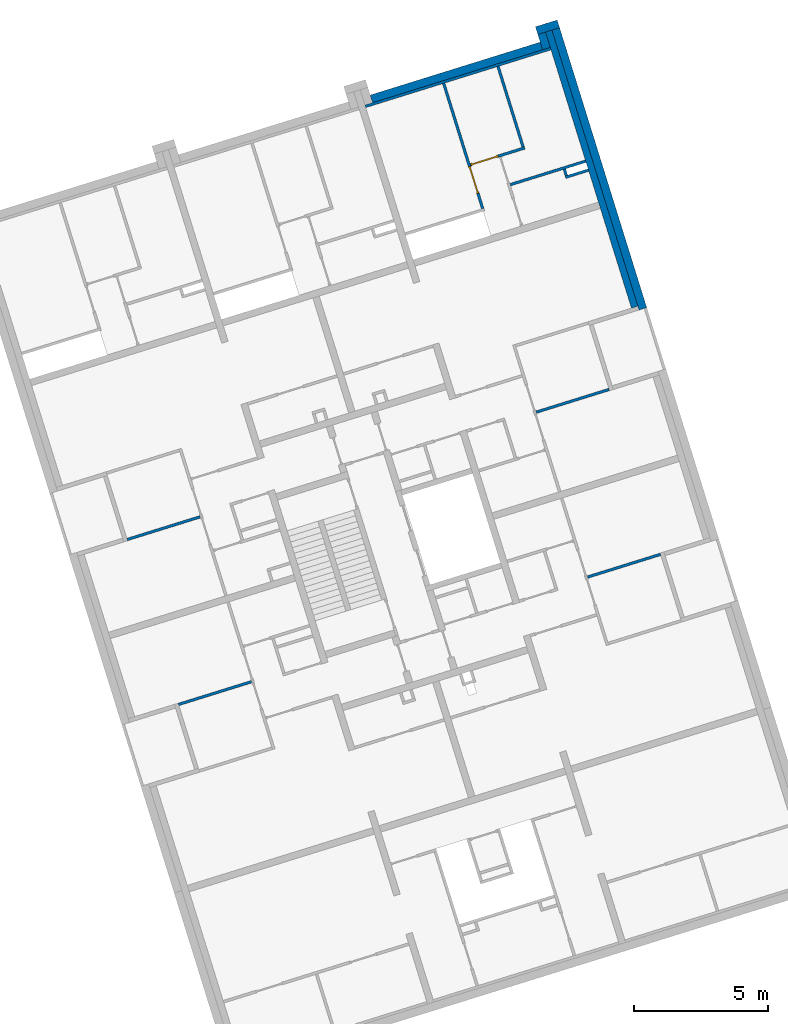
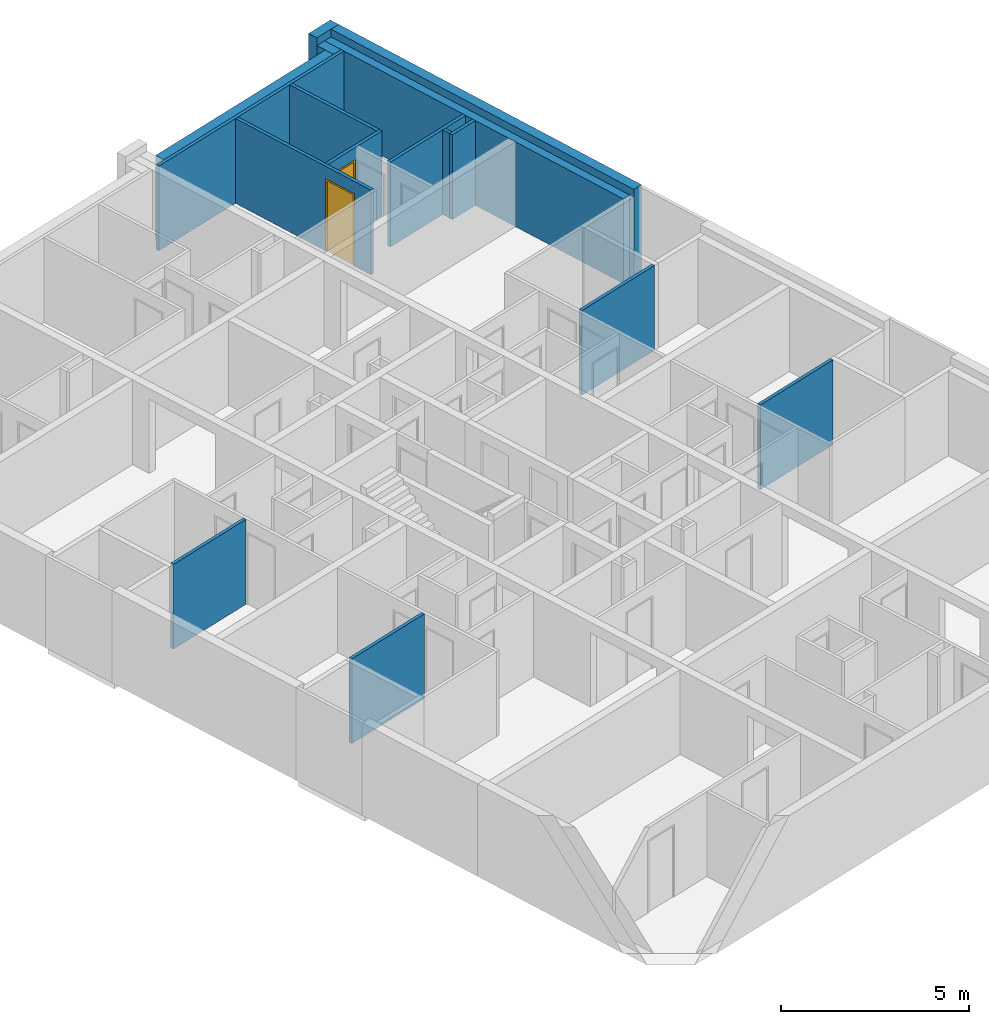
# One storey, part 9 of 12: 16 walls, 2 doors, 8 openings.
"""IFC4 building model written with IfcOpenShell, lengths in metres."""

from ifc_helpers import new_model, entity, si_unit, converted_unit, direction, frame, origin, place, context, subcontext, project, spatial, indexed_curve, outline, extrude, polygons, source, transform, mapped, material, constituent, constituent_set, type_object, type_shapes, element, fill, save


model = new_model("IFC4")

# Units and contexts
model_context = context("Model", 3, precision=1e-05, world=origin(), true_north=direction((6.12323399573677e-17, 1.0)))
body_context = subcontext(model_context, "Body", "Model", "MODEL_VIEW")
ifc_project = project(units=[si_unit("LENGTHUNIT", "METRE"), si_unit("AREAUNIT", "SQUARE_METRE"), converted_unit("PLANEANGLEUNIT", "DEGREE", entity("IfcPlaneAngleMeasure", 0.0174532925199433), si_unit("PLANEANGLEUNIT", "RADIAN"), dimensions=[0, 0, 0, 0, 0, 0, 0]), si_unit("VOLUMEUNIT", "CUBIC_METRE")], contexts=[model_context])

# Site, building, storey
site_placement = place(None, frame((13.1347999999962, 11.9886000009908, 0.0), z_axis=(0.0, 0.0, 1.0), x_axis=(0.954770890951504, 0.297342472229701, 0.0)))
site = spatial("IfcSite", under=ifc_project, at=site_placement, Name="Schiehaven", CompositionType="ELEMENT")
building_placement = place(site_placement, origin())
building = spatial("IfcBuilding", under=site, at=building_placement, Name="VORM huis", CompositionType="ELEMENT")
storey_placement = place(building_placement, frame((0.0, 0.0, 3.9)))
storey = spatial("IfcBuildingStorey", under=building, at=storey_placement, Name="01 eerste verdieping", CompositionType="ELEMENT", Elevation=3.9)

# Walls
ifc_material_1 = material(Name="beton_gewapend_ihw", Category="Miscellaneous")
wall_type_1 = type_object("IfcWallType", Name="Basic Wall:28_WA_skelet_wand 250mm_gen", PredefinedType="STANDARD")
wall_1_placement = place(storey_placement, frame((80.0, 22.9249999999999, 0.0), z_axis=(0.0, 0.0, 1.0), x_axis=(0.0, 1.0, 0.0)))
element("IfcWall", 1, at=wall_1_placement, inside=storey, type_object=wall_type_1, material=ifc_material_1, Name="Constructieve wand", ObjectType="Wand", PredefinedType="NOTDEFINED", context=body_context, shape_type="SweptSolid", body=[
    extrude(outline(indexed_curve([(10.8000000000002, 0.125000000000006), (8.02123799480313e-16, 0.125000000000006), (-8.02123799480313e-16, -0.125000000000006), (10.8000000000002, -0.125000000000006), (10.8000000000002, 0.125000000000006)], self_intersect=False)), origin(), (0.0, 0.0, 1.0), 2.75),
])
ifc_material_2 = material(Name="ntb_ntb_ntb", Category="Miscellaneous")
wall_type_2 = type_object("IfcWallType", Name="Basic Wall:21_WA_gevel_binnenspouwwand 100mm_gen", PredefinedType="STANDARD")
wall_2_placement = place(storey_placement, frame((72.6250000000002, 33.0749999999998, 0.0)))
element("IfcWall", 2, at=wall_2_placement, inside=storey, type_object=wall_type_2, material=ifc_material_2, Name="Binnenspouwblad", ObjectType="Wand", PredefinedType="NOTDEFINED", context=body_context, shape_type="SweptSolid", body=[
    extrude(outline(indexed_curve([(7.24999999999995, 0.0499999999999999), (-1.37255262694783e-16, 0.0500000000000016), (1.37255262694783e-16, -0.0500000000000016), (7.24999999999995, -0.0500000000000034), (7.24999999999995, 0.0499999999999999)], self_intersect=False)), origin(), (0.0, 0.0, 1.0), 2.75),
])
wall_type_3 = type_object("IfcWallType", Name="Basic Wall: 300mm_gen", PredefinedType="STANDARD")
wall_3_placement = place(storey_placement, frame((80.2750000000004, 22.7749999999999, 0.0), z_axis=(0.0, 0.0, 1.0), x_axis=(0.0, 1.0, 0.0)))
element("IfcWall", 3, at=wall_3_placement, inside=storey, type_object=wall_type_3, material=ifc_material_2, Name="Gevelwand", ObjectType="Wand", PredefinedType="NOTDEFINED", context=body_context, shape_type="SweptSolid", body=[
    extrude(outline(indexed_curve([(10.9499999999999, 0.150000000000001), (7.02400300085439e-16, 0.150000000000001), (-7.02400300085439e-16, -0.150000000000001), (10.9499999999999, -0.15), (10.9499999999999, 0.150000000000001)], self_intersect=False)), origin(), (0.0, 0.0, 1.0), 3.0),
])
wall_4_placement = place(storey_placement, frame((79.7250000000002, 33.7249999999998, 0.0), z_axis=(0.0, 0.0, 1.0), x_axis=(0.0, -1.0, 0.0)))
element("IfcWall", 4, at=wall_4_placement, inside=storey, type_object=wall_type_3, material=ifc_material_2, Name="Gevelwand", ObjectType="Wand", PredefinedType="NOTDEFINED", context=body_context, shape_type="SweptSolid", body=[
    extrude(outline(indexed_curve([(0.60000000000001, 0.150000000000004), (-9.66298299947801e-16, 0.150000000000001), (9.66298299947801e-16, -0.150000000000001), (0.600000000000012, -0.149999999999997), (0.60000000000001, 0.150000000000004)], self_intersect=False)), origin(), (0.0, 0.0, 1.0), 2.75),
])
wall_5_placement = place(storey_placement, frame((79.5750000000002, 33.2749999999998, 0.0), z_axis=(0.0, 0.0, 1.0), x_axis=(-1.0, 0.0, 0.0)))
element("IfcWall", 5, at=wall_5_placement, inside=storey, type_object=wall_type_3, material=ifc_material_2, Name="Gevelwand", ObjectType="Wand", PredefinedType="NOTDEFINED", context=body_context, shape_type="SweptSolid", body=[
    extrude(outline(indexed_curve([(6.64999999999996, 0.150000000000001), (-4.90186530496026e-16, 0.150000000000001), (4.90186530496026e-16, -0.150000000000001), (6.64999999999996, -0.15), (6.64999999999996, 0.150000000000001)], self_intersect=False)), origin(), (0.0, 0.0, 1.0), 2.75),
])
wall_6_placement = place(storey_placement, frame((80.4250000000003, 33.8749999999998, 0.0), z_axis=(0.0, 0.0, 1.0), x_axis=(-1.0, 0.0, 0.0)))
element("IfcWall", 6, at=wall_6_placement, inside=storey, type_object=wall_type_3, material=ifc_material_2, Name="Gevelwand", ObjectType="Wand", PredefinedType="NOTDEFINED", context=body_context, shape_type="SweptSolid", body=[
    extrude(outline(indexed_curve([(0.850000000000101, 0.150000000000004), (-6.58211410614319e-16, 0.150000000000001), (6.58211410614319e-16, -0.150000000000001), (0.850000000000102, -0.149999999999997), (0.850000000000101, 0.150000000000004)], self_intersect=False)), origin(), (0.0, 0.0, 1.0), 3.0),
])

# Wall, openings, door
wall_type_4 = type_object("IfcWallType", Name="Basic Wall:22_WA_afbouw_binnenwand 100mm_gen", PredefinedType="STANDARD")
wall_7_placement = place(storey_placement, frame((75.7250000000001, 29.8249999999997, 0.0)))
wall_7 = element("IfcWall", 7, at=wall_7_placement, inside=storey, type_object=wall_type_4, material=ifc_material_2, Name="Binnenwand", ObjectType="Wand", PredefinedType="NOTDEFINED", context=body_context, shape_type="Tessellation", body=[
    polygons([(2.12499999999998, -0.0500000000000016, 2.75), (1.19999999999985, -0.0499999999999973, 2.75), (1.09999999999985, -0.0500000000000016, 2.75), (2.23075167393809e-15, -0.0499999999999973, 2.75), (2.23075167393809e-15, -0.0499999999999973, 2.34999999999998), (2.23075167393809e-15, -0.0499999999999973, 0.0), (0.0250000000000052, -0.0499999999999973, 0.0), (0.0250000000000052, -0.0499999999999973, 2.34999999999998), (1.07500000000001, -0.0500000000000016, 2.34999999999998), (1.07500000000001, -0.0500000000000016, 0.0), (2.12499999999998, -0.0500000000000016, 0.0), (1.5690663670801e-15, 0.0500000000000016, 2.75), (2.02499999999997, 0.0500000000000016, 2.75), (2.12499999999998, 0.0499999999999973, 2.75), (2.12499999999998, 0.0499999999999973, 0.0), (2.02499999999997, 0.0500000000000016, 5.41433564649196e-16), (1.07500000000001, 0.0500000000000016, 0.0), (1.07500000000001, 0.0500000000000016, 2.34999999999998), (0.0250000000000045, 0.0500000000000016, 2.34999999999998), (0.0250000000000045, 0.0500000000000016, 0.0), (1.5690663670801e-15, 0.0500000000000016, 0.0)], [[[1, 2, 3, 4, 5, 6, 7, 8, 9, 10, 11]], [[12, 13, 14, 15, 16, 17, 18, 19, 20, 21]], [[6, 21, 20, 7]], [[4, 3, 2, 1, 14, 13, 12]], [[6, 5, 4, 12, 21]], [[19, 8, 7, 20]], [[9, 18, 17, 10]], [[8, 19, 18, 9]], [[1, 11, 15, 14]], [[15, 11, 10, 17, 16]]], closed=True),
])
opening_1_placement = place(wall_7_placement, origin())
element("IfcOpeningElement", 8, at=opening_1_placement, cuts=wall_7, Name="Binnendeur", PredefinedType="OPENING", context=body_context, shape_type="SweptSolid", body=[
    extrude(outline(indexed_curve([(-0.050000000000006, -1.17499999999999), (0.0499999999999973, -1.17499999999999), (0.0499999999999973, 1.17499999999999), (-0.050000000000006, 1.17499999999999), (-0.050000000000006, -1.17499999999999)], self_intersect=False)), frame((1.14999999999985, -1.10000000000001, 1.17499999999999), z_axis=(0.0, 1.0, 0.0), x_axis=(1.0, 0.0, 0.0)), (0.0, 0.0, 1.0), 1.05),
])
opening_2_placement = place(wall_7_placement, frame((1.07500000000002, 0.0499999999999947, 0.0)))
opening_2 = element("IfcOpeningElement", 9, at=opening_2_placement, cuts=wall_7, Name="Binnendeur", PredefinedType="OPENING", context=body_context, shape_type="SweptSolid", body=[
    extrude(outline(indexed_curve([(2.34999999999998, 1.05), (0.0, 1.05), (0.0, -1.13635160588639e-29), (2.34999999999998, -1.13635160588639e-29), (2.34999999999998, 1.05)], self_intersect=False)), frame((0.0, 0.0, 0.0), z_axis=(0.0, -1.0, 0.0), x_axis=(0.0, 0.0, 1.0)), (0.0, 0.0, 1.0), 0.1),
])
ifc_material_3 = material(Name="PD_a_binnenwandopeningen", Category="Miscellaneous")
ifc_constituent_1 = constituent(ifc_material_3, Name="PD_a_binnenwandopeningen", Category="Miscellaneous")
ifc_material_4 = material(Name="metaal_aluminium_ntb", Category="Miscellaneous")
ifc_constituent_2 = constituent(ifc_material_4, Name="metaal_aluminium_ntb", Category="Miscellaneous")
ifc_constituent_set_1 = constituent_set(constituents=[ifc_constituent_1, ifc_constituent_2])
ifc_constituent_3 = constituent(ifc_material_3, Name="PD_a_binnenwandopeningen", Category="Miscellaneous")
ifc_constituent_4 = constituent(ifc_material_4, Name="Panel", Category="Miscellaneous")
ifc_constituent_set_2 = constituent_set(constituents=[ifc_constituent_3, ifc_constituent_4])
door_type = type_object("IfcDoorType", Name="32_DO_binnendeur enkel:binnendeur", OperationType="REVOLVING", PredefinedType="DOOR", material=ifc_constituent_set_2)
shared_shape = source(origin(), body_context, "Body", "SweptSolid", [
    extrude(outline(indexed_curve([(-1.16249999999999, -0.525000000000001), (1.18749999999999, -0.525), (1.18749999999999, 0.525), (-1.16249999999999, 0.525), (-1.16249999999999, 0.475), (1.13749999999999, 0.475), (1.13749999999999, -0.475), (-1.16249999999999, -0.475), (-1.16249999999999, -0.525000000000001)], self_intersect=False)), frame((0.525000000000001, 0.0, 1.16249999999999), z_axis=(0.0, 1.0, 0.0), x_axis=(0.0, 0.0, 1.0)), (0.0, 0.0, 1.0), 0.1),
    extrude(outline(indexed_curve([(-0.025, -0.475), (0.025, -0.475), (0.025, 0.475), (-0.025, 0.475), (-0.025, -0.475)], self_intersect=False)), frame((0.525000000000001, 0.0499999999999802, 0.0), z_axis=(0.0, 0.0, 1.0), x_axis=(0.0, 1.0, 0.0)), (0.0, 0.0, 1.0), 2.29999999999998),
])
type_shapes(door_type, [shared_shape])
door_1_placement = place(opening_2_placement, frame((0.0, 0.0, 0.0), z_axis=(0.0, 0.0, 1.0), x_axis=(-1.0, 0.0, 0.0)))
door_1 = element("IfcDoor", 10, at=door_1_placement, inside=storey, type_object=door_type, material=ifc_constituent_set_1, Name="Binnendeur", ObjectType="Deur", OperationType="REVOLVING", OverallHeight=2.34999999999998, OverallWidth=1.05, PredefinedType="DOOR", context=body_context, shape_type="MappedRepresentation", body=[
    mapped(shared_shape, transform((0.0, 0.0, 0.0), scale=1.0)),
])
fill(opening_2, door_1)

wall_8_placement = place(storey_placement, frame((75.6750000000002, 33.0249999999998, 0.0), z_axis=(0.0, 0.0, 1.0), x_axis=(0.0, -1.0, 0.0)))
wall_8 = element("IfcWall", 11, at=wall_8_placement, inside=storey, type_object=wall_type_4, material=ifc_material_2, Name="Binnenwand", ObjectType="Wand", PredefinedType="NOTDEFINED", context=body_context, shape_type="Tessellation", body=[
    polygons([(4.90000000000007, -0.0500000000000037, 2.75), (4.33146851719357e-15, -0.0500000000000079, 2.75), (4.33146851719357e-15, -0.0500000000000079, 0.0), (3.25000000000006, -0.0500000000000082, 0.0), (3.25000000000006, -0.0500000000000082, 2.34999999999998), (4.30000000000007, -0.0500000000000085, 2.34999999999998), (4.30000000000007, -0.0500000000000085, 0.0), (4.90000000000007, -0.0500000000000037, 0.0), (0.0, 0.0499999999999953, 2.75), (3.15000000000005, 0.0499999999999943, 2.75), (3.25000000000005, 0.0499999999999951, 2.75), (4.90000000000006, 0.0499999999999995, 2.75), (4.90000000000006, 0.0499999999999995, 0.0), (4.30000000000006, 0.0499999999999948, 0.0), (4.30000000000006, 0.0499999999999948, 2.34999999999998), (3.25000000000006, 0.0499999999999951, 2.34999999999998), (3.25000000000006, 0.0499999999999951, 0.0), (3.15000000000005, 0.0499999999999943, 5.41433564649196e-16), (0.0, 0.0499999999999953, 0.0)], [[[1, 2, 3, 4, 5, 6, 7, 8]], [[9, 10, 11, 12, 13, 14, 15, 16, 17, 18, 19]], [[3, 19, 18, 17, 4]], [[2, 1, 12, 11, 10, 9]], [[3, 2, 9, 19]], [[1, 8, 13, 12]], [[6, 15, 14, 7]], [[16, 5, 4, 17]], [[15, 6, 5, 16]], [[13, 8, 7, 14]]], closed=True),
])
opening_3_placement = place(wall_8_placement, frame((3.25000000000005, -0.0500000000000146, 0.0)))
opening_3 = element("IfcOpeningElement", 12, at=opening_3_placement, cuts=wall_8, Name="Binnendeur", PredefinedType="OPENING", context=body_context, shape_type="SweptSolid", body=[
    extrude(outline(indexed_curve([(2.34999999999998, 1.05), (0.0, 1.05), (0.0, 0.0), (2.34999999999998, 0.0), (2.34999999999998, 1.05)], self_intersect=False)), frame((0.0, 0.0, 0.0), z_axis=(0.0, 1.0, 0.0), x_axis=(0.0, 0.0, 1.0)), (0.0, 0.0, 1.0), 0.1),
])
opening_4_placement = place(wall_8_placement, frame((33.0249999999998, -75.6750000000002, 0.0), z_axis=(0.0, 0.0, 1.0), x_axis=(0.0, 1.0, 0.0)))
element("IfcOpeningElement", 13, at=opening_4_placement, cuts=wall_8, Name="Binnendeur", PredefinedType="OPENING", context=body_context, shape_type="SweptSolid", body=[
    extrude(outline(indexed_curve([(-1.17499999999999, -0.524999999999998), (1.17499999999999, -0.525000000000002), (1.17499999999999, 0.525000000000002), (-1.17499999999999, 0.525000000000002), (-1.17499999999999, -0.524999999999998)], self_intersect=False)), frame((74.1010000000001, 29.2499999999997, 1.17499999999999), z_axis=(1.0, 0.0, 0.0), x_axis=(0.0, 0.0, -1.0)), (0.0, 0.0, 1.0), 3.048),
])
ifc_constituent_5 = constituent(ifc_material_3, Name="PD_a_binnenwandopeningen", Category="Miscellaneous")
ifc_constituent_6 = constituent(ifc_material_4, Name="metaal_aluminium_ntb", Category="Miscellaneous")
ifc_constituent_set_3 = constituent_set(constituents=[ifc_constituent_5, ifc_constituent_6])
door_2_placement = place(opening_3_placement, origin())
door_2 = element("IfcDoor", 14, at=door_2_placement, inside=storey, type_object=door_type, material=ifc_constituent_set_3, Name="Binnendeur", ObjectType="Deur", OperationType="REVOLVING", OverallHeight=2.34999999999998, OverallWidth=1.05, PredefinedType="DOOR", context=body_context, shape_type="MappedRepresentation", body=[
    mapped(shared_shape, transform((0.0, 0.0, 0.0), scale=1.0)),
])
fill(opening_3, door_2)

# Walls
wall_9_placement = place(storey_placement, frame((77.8000000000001, 33.0249999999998, 0.0), z_axis=(0.0, 0.0, 1.0), x_axis=(0.0, -1.0, 0.0)))
element("IfcWall", 15, at=wall_9_placement, inside=storey, type_object=wall_type_4, material=ifc_material_2, Name="Binnenwand", ObjectType="Wand", PredefinedType="NOTDEFINED", context=body_context, shape_type="SweptSolid", body=[
    extrude(outline(indexed_curve([(3.15000000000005, 0.0499999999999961), (-3.92720775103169e-16, 0.0499999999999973), (3.92720775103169e-16, -0.0499999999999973), (3.15000000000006, -0.0499999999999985), (3.15000000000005, 0.0499999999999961)], self_intersect=False)), origin(), (0.0, 0.0, 1.0), 2.75),
])
wall_10_placement = place(storey_placement, frame((76.925, 28.6749999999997, 0.0)))
element("IfcWall", 16, at=wall_10_placement, inside=storey, type_object=wall_type_4, material=ifc_material_2, Name="Binnenwand", ObjectType="Wand", PredefinedType="NOTDEFINED", context=body_context, shape_type="SweptSolid", body=[
    extrude(outline(indexed_curve([(2.9500000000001, 0.0499999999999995), (-3.30842653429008e-16, 0.0500000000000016), (3.30842653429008e-16, -0.0500000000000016), (2.9500000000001, -0.0500000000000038), (2.9500000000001, 0.0499999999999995)], self_intersect=False)), origin(), (0.0, 0.0, 1.0), 2.75),
])
wall_11_placement = place(storey_placement, frame((79.8750000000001, 28.3249999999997, 0.0), z_axis=(0.0, 0.0, 1.0), x_axis=(-1.0, 0.0, 0.0)))
element("IfcWall", 17, at=wall_11_placement, inside=storey, type_object=wall_type_4, material=ifc_material_2, Name="Binnenwand", ObjectType="Wand", PredefinedType="NOTDEFINED", context=body_context, shape_type="SweptSolid", body=[
    extrude(outline(indexed_curve([(0.899999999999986, 0.0500000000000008), (-4.33538283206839e-16, 0.0500000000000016), (4.33538283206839e-16, -0.0500000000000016), (0.899999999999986, -0.0500000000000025), (0.899999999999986, 0.0500000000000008)], self_intersect=False)), origin(), (0.0, 0.0, 1.0), 2.75),
])
wall_12_placement = place(storey_placement, frame((79.0250000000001, 28.3749999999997, 0.0), z_axis=(0.0, 0.0, 1.0), x_axis=(0.0, 1.0, 0.0)))
element("IfcWall", 18, at=wall_12_placement, inside=storey, type_object=wall_type_4, material=ifc_material_2, Name="Binnenwand", ObjectType="Wand", PredefinedType="NOTDEFINED", context=body_context, shape_type="SweptSolid", body=[
    extrude(outline(indexed_curve([(0.250000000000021, 0.0500000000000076), (-3.30842653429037e-16, 0.050000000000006), (3.30842653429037e-16, -0.050000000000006), (0.250000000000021, -0.0500000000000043), (0.250000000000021, 0.0500000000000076)], self_intersect=False)), origin(), (0.0, 0.0, 1.0), 2.75),
])

# Wall, opening
wall_13_placement = place(storey_placement, frame((75.3249999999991, 13.8249999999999, 0.0)))
wall_13 = element("IfcWall", 19, at=wall_13_placement, inside=storey, type_object=wall_type_4, material=ifc_material_2, Name="Binnenwand", ObjectType="Wand", PredefinedType="NOTDEFINED", context=body_context, shape_type="Tessellation", body=[
    polygons([(1.10032039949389e-14, -0.0500000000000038, -5.41433564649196e-16), (2.85000000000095, -0.0500000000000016, -5.41433564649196e-16), (2.85000000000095, -0.0500000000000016, 2.75), (1.10032039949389e-14, -0.0500000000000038, 2.75), (2.3402669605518e-15, -0.0500000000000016, 2.34999999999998), (1.20264145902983e-14, 0.0499999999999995, -5.41433564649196e-16), (3.36347755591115e-15, 0.0499999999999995, 2.34999999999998), (1.20264145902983e-14, 0.0499999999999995, 2.75), (2.85000000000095, 0.0500000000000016, 2.75), (2.85000000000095, 0.0500000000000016, -5.41433564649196e-16)], [[[1, 2, 3, 4, 5]], [[6, 7, 8, 9, 10]], [[2, 1, 6, 10]], [[3, 2, 10, 9]], [[4, 3, 9, 8]], [[1, 5, 4, 8, 7, 6]]], closed=True),
])
opening_5_placement = place(wall_13_placement, origin())
element("IfcOpeningElement", 20, at=opening_5_placement, cuts=wall_13, Name="Binnendeur", PredefinedType="OPENING", context=body_context, shape_type="SweptSolid", body=[
    extrude(outline(indexed_curve([(-0.050000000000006, -1.17499999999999), (0.0499999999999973, -1.17499999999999), (0.0499999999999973, 1.17499999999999), (-0.050000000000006, 1.17499999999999), (-0.050000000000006, -1.17499999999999)], self_intersect=False)), frame((-0.0500000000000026, 0.0500000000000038, 1.17499999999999), z_axis=(0.0, 1.0, 0.0), x_axis=(-1.0, 0.0, 0.0)), (0.0, 0.0, 1.0), 1.05),
])

wall_14_placement = place(storey_placement, frame((62.1750000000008, 13.825, 0.0), z_axis=(0.0, 0.0, 1.0), x_axis=(-1.0, 0.0, 0.0)))
wall_14 = element("IfcWall", 21, at=wall_14_placement, inside=storey, type_object=wall_type_4, material=ifc_material_2, Name="Binnenwand", ObjectType="Wand", PredefinedType="NOTDEFINED", context=body_context, shape_type="Tessellation", body=[
    polygons([(-7.60532948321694e-15, -0.0499999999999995, -5.41433564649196e-16), (2.85000000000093, -0.0500000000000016, -5.41433564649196e-16), (2.85000000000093, -0.0500000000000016, 2.75), (-7.60532948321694e-15, -0.0499999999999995, 2.75), (1.05760755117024e-15, -0.0500000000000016, 2.34999999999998), (-8.92409910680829e-15, 0.0499999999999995, -5.41433564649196e-16), (-2.61162072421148e-16, 0.0499999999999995, 2.34999999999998), (-8.92409910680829e-15, 0.0499999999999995, 2.75), (2.85000000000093, 0.0499999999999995, 2.75), (2.85000000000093, 0.0499999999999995, -5.41433564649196e-16)], [[[1, 2, 3, 4, 5]], [[6, 7, 8, 9, 10]], [[2, 1, 6, 10]], [[3, 2, 10, 9]], [[4, 3, 9, 8]], [[1, 5, 4, 8, 7, 6]]], closed=True),
])
opening_6_placement = place(wall_14_placement, origin())
element("IfcOpeningElement", 22, at=opening_6_placement, cuts=wall_14, Name="Binnendeur", PredefinedType="OPENING", context=body_context, shape_type="SweptSolid", body=[
    extrude(outline(indexed_curve([(-0.050000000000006, -1.17499999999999), (0.0499999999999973, -1.17499999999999), (0.0499999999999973, 1.17499999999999), (-0.050000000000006, 1.17499999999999), (-0.050000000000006, -1.17499999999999)], self_intersect=False)), frame((-0.0499999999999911, -1.10000000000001, 1.17499999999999), z_axis=(0.0, 1.0, 0.0), x_axis=(1.0, 0.0, 0.0)), (0.0, 0.0, 1.0), 1.05),
])

wall_15_placement = place(storey_placement, frame((62.1750000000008, 20.2749999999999, 0.0), z_axis=(0.0, 0.0, 1.0), x_axis=(-1.0, 0.0, 0.0)))
wall_15 = element("IfcWall", 23, at=wall_15_placement, inside=storey, type_object=wall_type_4, material=ifc_material_2, Name="Binnenwand", ObjectType="Wand", PredefinedType="NOTDEFINED", context=body_context, shape_type="Tessellation", body=[
    polygons([(9.57562481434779e-15, -0.0499999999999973, -5.41433564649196e-16), (2.85000000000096, -0.0499999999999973, -5.41433564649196e-16), (2.85000000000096, -0.0499999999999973, 2.75), (9.57562481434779e-15, -0.0499999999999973, 2.75), (9.57562481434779e-15, -0.0499999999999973, 2.34999999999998), (2.22948168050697e-15, 0.0500000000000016, -5.41433564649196e-16), (1.08924187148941e-14, 0.0500000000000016, 2.34999999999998), (1.08924187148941e-14, 0.0500000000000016, 2.75), (2.85000000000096, 0.0500000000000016, 2.75), (2.85000000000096, 0.0500000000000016, -5.41433564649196e-16)], [[[1, 2, 3, 4, 5]], [[6, 7, 8, 9, 10]], [[2, 1, 6, 10]], [[3, 2, 10, 9]], [[4, 3, 9, 8]], [[1, 5, 4, 8, 7, 6]]], closed=True),
])
opening_7_placement = place(wall_15_placement, origin())
element("IfcOpeningElement", 24, at=opening_7_placement, cuts=wall_15, Name="Binnendeur", PredefinedType="OPENING", context=body_context, shape_type="SweptSolid", body=[
    extrude(outline(indexed_curve([(-0.050000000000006, -1.17499999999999), (0.0499999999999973, -1.17499999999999), (0.0499999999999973, 1.17499999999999), (-0.050000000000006, 1.17499999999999), (-0.050000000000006, -1.17499999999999)], self_intersect=False)), frame((-0.0499999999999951, 0.0500000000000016, 1.17499999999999), z_axis=(0.0, 1.0, 0.0), x_axis=(-1.0, 0.0, 0.0)), (0.0, 0.0, 1.0), 1.05),
])

wall_16_placement = place(storey_placement, frame((75.3249999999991, 20.2749999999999, 0.0)))
wall_16 = element("IfcWall", 25, at=wall_16_placement, inside=storey, type_object=wall_type_4, material=ifc_material_2, Name="Binnenwand", ObjectType="Wand", PredefinedType="NOTDEFINED", context=body_context, shape_type="Tessellation", body=[
    polygons([(3.13558674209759e-15, -0.0499999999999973, -5.41433564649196e-16), (2.85000000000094, -0.0499999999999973, -5.41433564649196e-16), (2.85000000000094, -0.0499999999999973, 2.75), (3.13558674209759e-15, -0.0499999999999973, 2.75), (3.13558674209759e-15, -0.0499999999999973, 2.34999999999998), (2.12310267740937e-15, 0.0500000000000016, -5.41433564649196e-16), (2.12310267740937e-15, 0.0500000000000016, 2.34999999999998), (2.12310267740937e-15, 0.0500000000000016, 2.75), (2.85000000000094, 0.0500000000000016, 2.75), (2.85000000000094, 0.0500000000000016, -5.41433564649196e-16)], [[[1, 2, 3, 4, 5]], [[6, 7, 8, 9, 10]], [[2, 1, 6, 10]], [[3, 2, 10, 9]], [[4, 3, 9, 8]], [[1, 5, 4, 8, 7, 6]]], closed=True),
])
opening_8_placement = place(wall_16_placement, origin())
element("IfcOpeningElement", 26, at=opening_8_placement, cuts=wall_16, Name="Binnendeur", PredefinedType="OPENING", context=body_context, shape_type="SweptSolid", body=[
    extrude(outline(indexed_curve([(-0.0499999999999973, -1.17499999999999), (0.050000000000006, -1.17499999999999), (0.050000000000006, 1.17499999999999), (-0.0499999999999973, 1.17499999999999), (-0.0499999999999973, -1.17499999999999)], self_intersect=False)), frame((-0.0500000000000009, -1.1, 1.17499999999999), z_axis=(0.0, 1.0, 0.0), x_axis=(1.0, 0.0, 0.0)), (0.0, 0.0, 1.0), 1.05),
])

save(model, "model.ifc")
